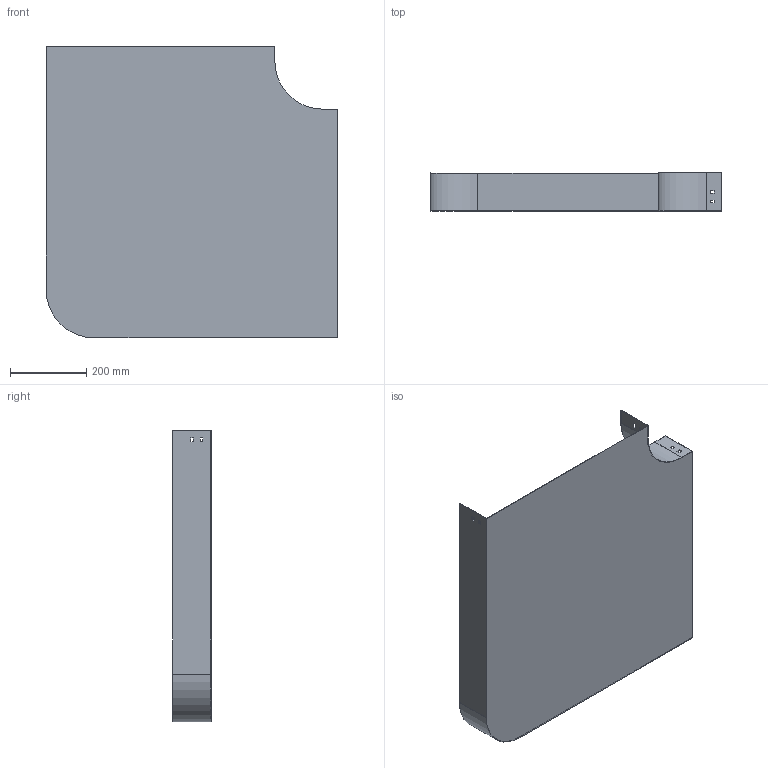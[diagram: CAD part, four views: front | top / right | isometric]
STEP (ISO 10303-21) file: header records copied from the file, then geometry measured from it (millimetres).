
FILE_DESCRIPTION (( 'STEP AP214' ), '1' );
FILE_NAME ('P9_601.step', '2025-07-16T09:21:22', ( '' ), ( '' ), 'SwSTEP 2.0', 'SolidWorks 2023', '' );
FILE_SCHEMA (( 'AUTOMOTIVE_DESIGN' ));
Length unit declared in the file: millimetre
Products named in the file (1): P9_601
Bounding box: 765 x 100 x 765 mm (x, y, z)
Volume: 1095121.3 mm3; surface area: 1465589.8 mm2
Topology: 1 solids, 1 shells, 50 faces, 144 edges, 96 vertices
Faces by surface type: plane 46, cylinder 4
Entity records: 1671 total; most frequent: CARTESIAN_POINT 291, ORIENTED_EDGE 288, DIRECTION 254, EDGE_CURVE 144, VECTOR 136, LINE 136, VERTEX_POINT 96, EDGE_LOOP 66
